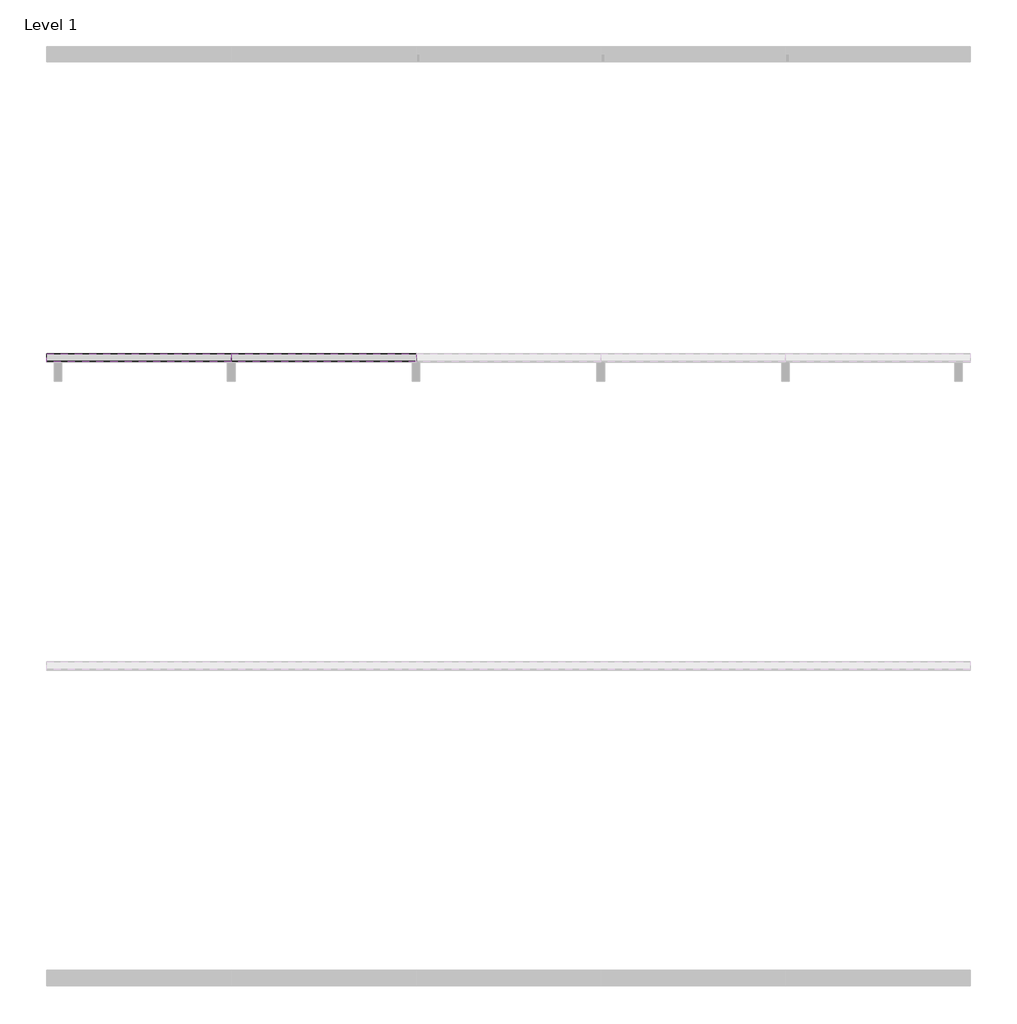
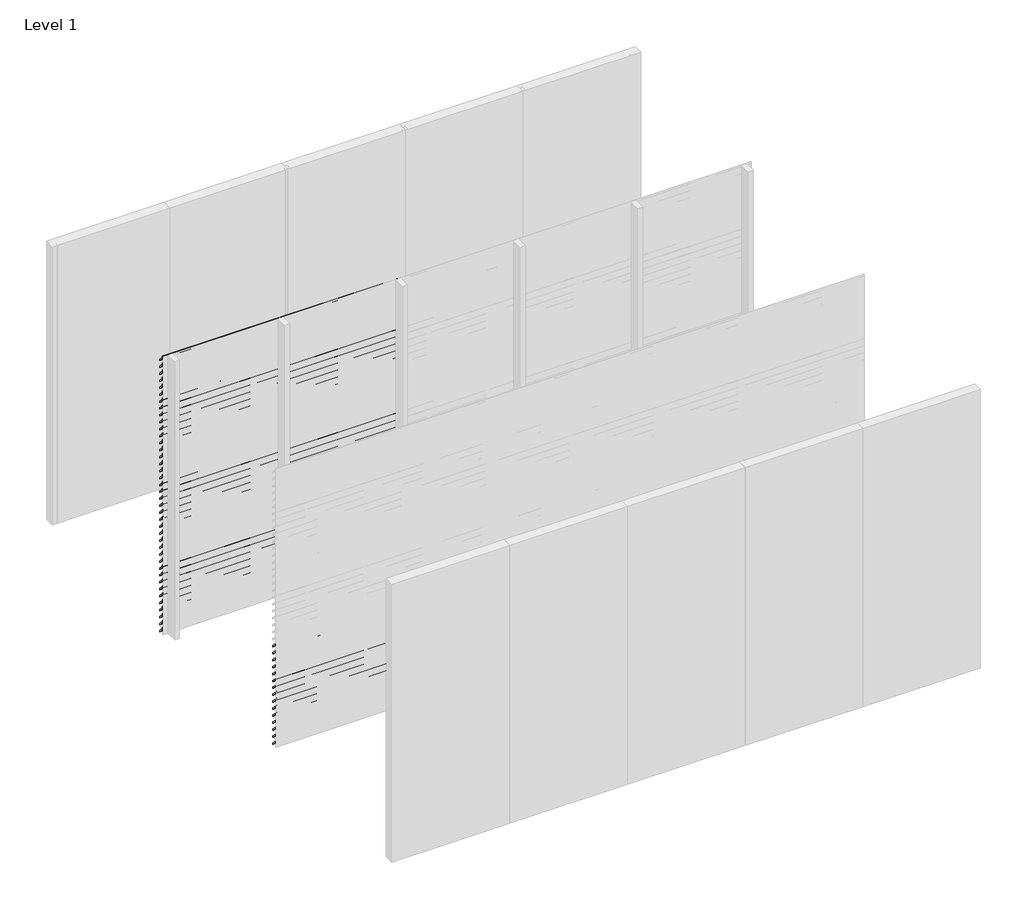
# One storey, part 2 of 11: 92 proxies.
"""IFC4 building model written with IfcOpenShell, lengths in millimetres."""

import ifcopenshell
import ifcopenshell.guid

model = None  # the IFC model being written
_history = None  # IfcOwnerHistory: only IFC2X3 demands one
_inside = {}  # id of a spatial element -> (the spatial element, [elements in it])
_under = {}  # id of a project, library or spatial element -> (it, [spatial elements below it])
_declared = {}  # id of a project -> (the project, [libraries it declares])
_typed = {}  # id of a type object -> (the type object, [elements of that type])
_made_of = {}  # id of a material, layer set ... -> (it, [elements and type objects made of it])


def new_model(schema):
    """Start an empty IFC model of exactly this schema.

    Asked for "IFC4X3", IfcOpenShell would pick the latest addendum, in which some entities
    have other attributes; the version numbers below select the first issue.
    IFC2X3 requires an IfcOwnerHistory on every rooted entity: one is made here for all.
    """
    global model, _history
    if schema == "IFC4X3":
        model = ifcopenshell.file(schema_version=(4, 3, 0, 0))
    else:
        model = ifcopenshell.file(schema=schema)
    _inside.clear()
    _under.clear()
    _declared.clear()
    _typed.clear()
    _made_of.clear()
    _history = None
    if model.schema == "IFC2X3":
        org = make("IfcOrganization", Name="unknown")
        user = make(
            "IfcPersonAndOrganization",
            ThePerson=make("IfcPerson", FamilyName="unknown"),
            TheOrganization=org,
        )
        app = make(
            "IfcApplication",
            ApplicationDeveloper=org,
            Version="unknown",
            ApplicationFullName="unknown",
            ApplicationIdentifier="unknown",
        )
        _history = make(
            "IfcOwnerHistory",
            OwningUser=user,
            OwningApplication=app,
            ChangeAction="ADDED",
            CreationDate=0,
        )
    return model


def make(cls, **values):
    """One entity of the class cls with the attributes given. An attribute that is None is left unset."""
    return model.create_entity(
        cls, **{name: value for name, value in values.items() if value is not None}
    )


def rooted(cls, **values):
    """An entity with a GlobalId (a new one), such as an element, a storey or a relation."""
    return make(cls, GlobalId=ifcopenshell.guid.new(), OwnerHistory=_history, **values)


def si_unit(unit_type, name, prefix=None):
    """IfcSIUnit, for example si_unit("LENGTHUNIT", "METRE", prefix="MILLI")."""
    return make("IfcSIUnit", UnitType=unit_type, Prefix=prefix, Name=name)


def assignment(units):
    """IfcUnitAssignment: the units of a project."""
    return None if units is None else make("IfcUnitAssignment", Units=units)


def point(xyz):
    """IfcCartesianPoint."""
    return None if xyz is None else make("IfcCartesianPoint", Coordinates=xyz)


def direction(xyz):
    """IfcDirection."""
    return None if xyz is None else make("IfcDirection", DirectionRatios=xyz)


def frame(location, z_axis=None, x_axis=None):
    """IfcAxis2Placement3D, a coordinate frame: its origin and axes. An axis left out is left unset."""
    return make(
        "IfcAxis2Placement3D",
        Location=point(location),
        Axis=direction(z_axis),
        RefDirection=direction(x_axis),
    )


def origin():
    """The frame at (0, 0, 0) with its axes left unset."""
    return frame((0.0, 0.0, 0.0))


def place(relative_to, where):
    """IfcLocalPlacement: puts the frame where relative to a parent placement (None: the world)."""
    return make(
        "IfcLocalPlacement", PlacementRelTo=relative_to, RelativePlacement=where
    )


def context(
    kind, dimensions, precision=None, world=None, true_north=None, identifier=None
):
    """IfcGeometricRepresentationContext, for example the 3D "Model" context."""
    return make(
        "IfcGeometricRepresentationContext",
        ContextIdentifier=identifier,
        ContextType=kind,
        CoordinateSpaceDimension=dimensions,
        Precision=precision,
        WorldCoordinateSystem=world,
        TrueNorth=true_north,
    )


def project(units=None, contexts=None):
    """IfcProject with its units and contexts."""
    return rooted(
        "IfcProject",
        Name="project",
        RepresentationContexts=contexts,
        UnitsInContext=assignment(units),
    )


def spatial(cls, under=None, at=None, **own):
    """A site, building, storey or space (cls), placed at a placement, below another one or the project."""
    s = rooted(cls, ObjectPlacement=at, **own)
    if under is not None:
        _under.setdefault(under.id(), (under, []))[1].append(s)
    return s


def polyline(points):
    """IfcPolyline through the points."""
    return make("IfcPolyline", Points=[point(p) for p in points])


def outline(outer, holes=None, kind="AREA"):
    """IfcArbitraryClosedProfileDef: a profile drawn as a closed curve; with holes, ...WithVoids."""
    if holes is None:
        return make("IfcArbitraryClosedProfileDef", ProfileType=kind, OuterCurve=outer)
    return make(
        "IfcArbitraryProfileDefWithVoids",
        ProfileType=kind,
        OuterCurve=outer,
        InnerCurves=holes,
    )


def extrude(swept, where, along, depth):
    """IfcExtrudedAreaSolid: the profile swept, set in the frame where, extruded along a direction by depth."""
    return make(
        "IfcExtrudedAreaSolid",
        SweptArea=swept,
        Position=where,
        ExtrudedDirection=direction(along),
        Depth=depth,
    )


def shape(context_of_items, identifier, shape_type, items):
    """IfcShapeRepresentation: the items that make up one representation, for example the "Body"."""
    return make(
        "IfcShapeRepresentation",
        ContextOfItems=context_of_items,
        RepresentationIdentifier=identifier,
        RepresentationType=shape_type,
        Items=items,
    )


def made_of(thing, what):
    """Note that an element or type object is made of a material, layer set ...; save() writes the relation."""
    if what is not None:
        _made_of.setdefault(what.id(), (what, []))[1].append(thing)
    return thing


def element(
    cls,
    number,
    at=None,
    inside=None,
    cuts=None,
    type_object=None,
    material=None,
    context=None,
    identifier="Body",
    shape_type=None,
    held_by="IfcProductDefinitionShape",
    body=None,
    shapes=None,
    **own,
):
    """One element of the class cls, such as IfcWall. Its Tag is "e" and its number.

    at: its placement. inside: the storey or other place that contains it. cuts: it is an
    opening in that element (IfcRelVoidsElement). A single representation is given by context,
    identifier, shape_type and body (its items); several are given by shapes. held_by: the class
    of the entity that holds the representations. save() writes the other relations.
    """
    e = rooted(cls, Tag="e%d" % number, ObjectPlacement=at, **own)
    if body is not None:
        shapes = [shape(context, identifier, shape_type, body)]
    if shapes is not None:
        e.Representation = make(held_by, Representations=shapes)
    if inside is not None:
        _inside.setdefault(inside.id(), (inside, []))[1].append(e)
    if cuts is not None:
        rooted(
            "IfcRelVoidsElement", RelatingBuildingElement=cuts, RelatedOpeningElement=e
        )
    if type_object is not None:
        _typed.setdefault(type_object.id(), (type_object, []))[1].append(e)
    return made_of(e, material)


def aggregate(whole, parts):
    """IfcRelAggregates: a whole, such as a stair, and the parts it consists of."""
    return rooted("IfcRelAggregates", RelatingObject=whole, RelatedObjects=parts)


def save(model, path):
    """Write the relations noted so far, then the file.

    IfcRelAggregates (storeys below a building ...), IfcRelContainedInSpatialStructure (elements
    in a storey), IfcRelDefinesByType, IfcRelAssociatesMaterial and IfcRelDeclares: one each for
    every whole, place, type object, material and project.
    """
    for whole, parts in _under.values():
        aggregate(whole, parts)
    for where, things in _inside.values():
        rooted(
            "IfcRelContainedInSpatialStructure",
            RelatedElements=things,
            RelatingStructure=where,
        )
    for kind, things in _typed.values():
        rooted("IfcRelDefinesByType", RelatedObjects=things, RelatingType=kind)
    for what, things in _made_of.values():
        rooted("IfcRelAssociatesMaterial", RelatedObjects=things, RelatingMaterial=what)
    for by, libraries in _declared.values():
        rooted("IfcRelDeclares", RelatingContext=by, RelatedDefinitions=libraries)
    model.write(path)


model = new_model("IFC4")

# Units and contexts
model_context = context("Model", 3, world=origin())
ifc_project = project(units=[si_unit("LENGTHUNIT", "METRE", prefix="MILLI")], contexts=[model_context])

# Site, building, storey
site = spatial("IfcSite", under=ifc_project)
building = spatial("IfcBuilding", under=site)
storey = spatial("IfcBuildingStorey", under=building, Name="Level 1", Elevation=0.0)

# Proxies
placement = place(None, origin())
element("IfcBuildingElementProxy", 1, Name="Wall Sweeps", at=placement, inside=storey, context=model_context, shape_type="SweptSolid", body=[
    extrude(outline(polyline([(-17995.0, 3000.0), (-17995.0, 2990.7409854), (-17946.0, 2940.0), (-17946.0, 2924.0), (-17997.0, 2976.812046), (-17997.0, 3000.0), (-17995.0, 3000.0)])), frame((1200.0000002, 0.0, 0.0), z_axis=(1.0, 0.0, 0.0), x_axis=(0.0, 1.0, 0.0)), (0.0, 0.0, 1.0), 1199.9999999),
])
element("IfcBuildingElementProxy", 2, Name="Wall Sweeps", at=placement, inside=storey, context=model_context, shape_type="SweptSolid", body=[
    extrude(outline(polyline([(-17995.0, 2925.0), (-17995.0, 2915.7409854), (-17946.0, 2865.0), (-17946.0, 2849.0), (-17997.0, 2901.812046), (-17997.0, 2925.0), (-17995.0, 2925.0)])), frame((1200.0000002, 0.0, 0.0), z_axis=(1.0, 0.0, 0.0), x_axis=(0.0, 1.0, 0.0)), (0.0, 0.0, 1.0), 1199.9999999),
])
element("IfcBuildingElementProxy", 3, Name="Wall Sweeps", at=placement, inside=storey, context=model_context, shape_type="SweptSolid", body=[
    extrude(outline(polyline([(-17995.0, 2850.0), (-17995.0, 2840.7409854), (-17946.0, 2790.0), (-17946.0, 2774.0), (-17997.0, 2826.812046), (-17997.0, 2850.0), (-17995.0, 2850.0)])), frame((1200.0000002, 0.0, 0.0), z_axis=(1.0, 0.0, 0.0), x_axis=(0.0, 1.0, 0.0)), (0.0, 0.0, 1.0), 1199.9999999),
])
element("IfcBuildingElementProxy", 4, Name="Wall Sweeps", at=placement, inside=storey, context=model_context, shape_type="SweptSolid", body=[
    extrude(outline(polyline([(-17995.0, 2775.0), (-17995.0, 2765.7409854), (-17946.0, 2715.0), (-17946.0, 2699.0), (-17997.0, 2751.812046), (-17997.0, 2775.0), (-17995.0, 2775.0)])), frame((1200.0000002, 0.0, 0.0), z_axis=(1.0, 0.0, 0.0), x_axis=(0.0, 1.0, 0.0)), (0.0, 0.0, 1.0), 1199.9999999),
])
element("IfcBuildingElementProxy", 5, Name="Wall Sweeps", at=placement, inside=storey, context=model_context, shape_type="SweptSolid", body=[
    extrude(outline(polyline([(-17995.0, 2700.0), (-17995.0, 2690.7409854), (-17946.0, 2640.0), (-17946.0, 2624.0), (-17997.0, 2676.812046), (-17997.0, 2700.0), (-17995.0, 2700.0)])), frame((1200.0000002, 0.0, 0.0), z_axis=(1.0, 0.0, 0.0), x_axis=(0.0, 1.0, 0.0)), (0.0, 0.0, 1.0), 1199.9999999),
])
element("IfcBuildingElementProxy", 6, Name="Wall Sweeps", at=placement, inside=storey, context=model_context, shape_type="SweptSolid", body=[
    extrude(outline(polyline([(-17995.0, 2625.0), (-17995.0, 2615.7409854), (-17946.0, 2565.0), (-17946.0, 2549.0), (-17997.0, 2601.812046), (-17997.0, 2625.0), (-17995.0, 2625.0)])), frame((1200.0000002, 0.0, 0.0), z_axis=(1.0, 0.0, 0.0), x_axis=(0.0, 1.0, 0.0)), (0.0, 0.0, 1.0), 1199.9999999),
])
element("IfcBuildingElementProxy", 7, Name="Wall Sweeps", at=placement, inside=storey, context=model_context, shape_type="SweptSolid", body=[
    extrude(outline(polyline([(-17995.0, 2550.0), (-17995.0, 2540.7409854), (-17946.0, 2490.0), (-17946.0, 2474.0), (-17997.0, 2526.812046), (-17997.0, 2550.0), (-17995.0, 2550.0)])), frame((1200.0000002, 0.0, 0.0), z_axis=(1.0, 0.0, 0.0), x_axis=(0.0, 1.0, 0.0)), (0.0, 0.0, 1.0), 1199.9999999),
])
element("IfcBuildingElementProxy", 8, Name="Wall Sweeps", at=placement, inside=storey, context=model_context, shape_type="SweptSolid", body=[
    extrude(outline(polyline([(-17995.0, 2475.0), (-17995.0, 2465.7409854), (-17946.0, 2415.0), (-17946.0, 2399.0), (-17997.0, 2451.812046), (-17997.0, 2475.0), (-17995.0, 2475.0)])), frame((1200.0000002, 0.0, 0.0), z_axis=(1.0, 0.0, 0.0), x_axis=(0.0, 1.0, 0.0)), (0.0, 0.0, 1.0), 1199.9999999),
])
element("IfcBuildingElementProxy", 9, Name="Wall Sweeps", at=placement, inside=storey, context=model_context, shape_type="SweptSolid", body=[
    extrude(outline(polyline([(-17995.0, 2400.0), (-17995.0, 2390.7409854), (-17946.0, 2340.0), (-17946.0, 2324.0), (-17997.0, 2376.812046), (-17997.0, 2400.0), (-17995.0, 2400.0)])), frame((1200.0000002, 0.0, 0.0), z_axis=(1.0, 0.0, 0.0), x_axis=(0.0, 1.0, 0.0)), (0.0, 0.0, 1.0), 1199.9999999),
])
element("IfcBuildingElementProxy", 10, Name="Wall Sweeps", at=placement, inside=storey, context=model_context, shape_type="SweptSolid", body=[
    extrude(outline(polyline([(-17995.0, 2325.0), (-17995.0, 2315.7409854), (-17946.0, 2265.0), (-17946.0, 2249.0), (-17997.0, 2301.812046), (-17997.0, 2325.0), (-17995.0, 2325.0)])), frame((1200.0000002, 0.0, 0.0), z_axis=(1.0, 0.0, 0.0), x_axis=(0.0, 1.0, 0.0)), (0.0, 0.0, 1.0), 1199.9999999),
])
element("IfcBuildingElementProxy", 11, Name="Wall Sweeps", at=placement, inside=storey, context=model_context, shape_type="SweptSolid", body=[
    extrude(outline(polyline([(-17995.0, 2250.0), (-17995.0, 2240.7409854), (-17946.0, 2190.0), (-17946.0, 2174.0), (-17997.0, 2226.812046), (-17997.0, 2250.0), (-17995.0, 2250.0)])), frame((1200.0000002, 0.0, 0.0), z_axis=(1.0, 0.0, 0.0), x_axis=(0.0, 1.0, 0.0)), (0.0, 0.0, 1.0), 1199.9999999),
])
element("IfcBuildingElementProxy", 12, Name="Wall Sweeps", at=placement, inside=storey, context=model_context, shape_type="SweptSolid", body=[
    extrude(outline(polyline([(-17995.0, 2175.0), (-17995.0, 2165.7409854), (-17946.0, 2115.0), (-17946.0, 2099.0), (-17997.0, 2151.812046), (-17997.0, 2175.0), (-17995.0, 2175.0)])), frame((1200.0000002, 0.0, 0.0), z_axis=(1.0, 0.0, 0.0), x_axis=(0.0, 1.0, 0.0)), (0.0, 0.0, 1.0), 1199.9999999),
])
element("IfcBuildingElementProxy", 13, Name="Wall Sweeps", at=placement, inside=storey, context=model_context, shape_type="SweptSolid", body=[
    extrude(outline(polyline([(-17995.0, 2100.0), (-17995.0, 2090.7409854), (-17946.0, 2040.0), (-17946.0, 2024.0), (-17997.0, 2076.812046), (-17997.0, 2100.0), (-17995.0, 2100.0)])), frame((1200.0000002, 0.0, 0.0), z_axis=(1.0, 0.0, 0.0), x_axis=(0.0, 1.0, 0.0)), (0.0, 0.0, 1.0), 1199.9999999),
])
element("IfcBuildingElementProxy", 14, Name="Wall Sweeps", at=placement, inside=storey, context=model_context, shape_type="SweptSolid", body=[
    extrude(outline(polyline([(-17995.0, 2025.0), (-17995.0, 2015.7409854), (-17946.0, 1965.0), (-17946.0, 1949.0), (-17997.0, 2001.812046), (-17997.0, 2025.0), (-17995.0, 2025.0)])), frame((1200.0000002, 0.0, 0.0), z_axis=(1.0, 0.0, 0.0), x_axis=(0.0, 1.0, 0.0)), (0.0, 0.0, 1.0), 1199.9999999),
])
element("IfcBuildingElementProxy", 15, Name="Wall Sweeps", at=placement, inside=storey, context=model_context, shape_type="SweptSolid", body=[
    extrude(outline(polyline([(-17995.0, 1950.0), (-17995.0, 1940.7409854), (-17946.0, 1890.0), (-17946.0, 1874.0), (-17997.0, 1926.812046), (-17997.0, 1950.0), (-17995.0, 1950.0)])), frame((1200.0000002, 0.0, 0.0), z_axis=(1.0, 0.0, 0.0), x_axis=(0.0, 1.0, 0.0)), (0.0, 0.0, 1.0), 1199.9999999),
])
element("IfcBuildingElementProxy", 16, Name="Wall Sweeps", at=placement, inside=storey, context=model_context, shape_type="SweptSolid", body=[
    extrude(outline(polyline([(-17995.0, 1875.0), (-17995.0, 1865.7409854), (-17946.0, 1815.0), (-17946.0, 1799.0), (-17997.0, 1851.812046), (-17997.0, 1875.0), (-17995.0, 1875.0)])), frame((1200.0000002, 0.0, 0.0), z_axis=(1.0, 0.0, 0.0), x_axis=(0.0, 1.0, 0.0)), (0.0, 0.0, 1.0), 1199.9999999),
])
element("IfcBuildingElementProxy", 17, Name="Wall Sweeps", at=placement, inside=storey, context=model_context, shape_type="SweptSolid", body=[
    extrude(outline(polyline([(-17995.0, 1800.0), (-17995.0, 1790.7409854), (-17946.0, 1740.0), (-17946.0, 1724.0), (-17997.0, 1776.812046), (-17997.0, 1800.0), (-17995.0, 1800.0)])), frame((1200.0000002, 0.0, 0.0), z_axis=(1.0, 0.0, 0.0), x_axis=(0.0, 1.0, 0.0)), (0.0, 0.0, 1.0), 1199.9999999),
])
element("IfcBuildingElementProxy", 18, Name="Wall Sweeps", at=placement, inside=storey, context=model_context, shape_type="SweptSolid", body=[
    extrude(outline(polyline([(-17995.0, 1725.0), (-17995.0, 1715.7409854), (-17946.0, 1665.0), (-17946.0, 1649.0), (-17997.0, 1701.812046), (-17997.0, 1725.0), (-17995.0, 1725.0)])), frame((1200.0000002, 0.0, 0.0), z_axis=(1.0, 0.0, 0.0), x_axis=(0.0, 1.0, 0.0)), (0.0, 0.0, 1.0), 1199.9999999),
])
element("IfcBuildingElementProxy", 19, Name="Wall Sweeps", at=placement, inside=storey, context=model_context, shape_type="SweptSolid", body=[
    extrude(outline(polyline([(-17995.0, 1650.0), (-17995.0, 1640.7409854), (-17946.0, 1590.0), (-17946.0, 1574.0), (-17997.0, 1626.812046), (-17997.0, 1650.0), (-17995.0, 1650.0)])), frame((1200.0000002, 0.0, 0.0), z_axis=(1.0, 0.0, 0.0), x_axis=(0.0, 1.0, 0.0)), (0.0, 0.0, 1.0), 1199.9999999),
])
element("IfcBuildingElementProxy", 20, Name="Wall Sweeps", at=placement, inside=storey, context=model_context, shape_type="SweptSolid", body=[
    extrude(outline(polyline([(-17995.0, 1575.0), (-17995.0, 1565.7409854), (-17946.0, 1515.0), (-17946.0, 1499.0), (-17997.0, 1551.812046), (-17997.0, 1575.0), (-17995.0, 1575.0)])), frame((1200.0000002, 0.0, 0.0), z_axis=(1.0, 0.0, 0.0), x_axis=(0.0, 1.0, 0.0)), (0.0, 0.0, 1.0), 1199.9999999),
])
element("IfcBuildingElementProxy", 21, Name="Wall Sweeps", at=placement, inside=storey, context=model_context, shape_type="SweptSolid", body=[
    extrude(outline(polyline([(-17995.0, 1500.0), (-17995.0, 1490.7409854), (-17946.0, 1440.0), (-17946.0, 1424.0), (-17997.0, 1476.812046), (-17997.0, 1500.0), (-17995.0, 1500.0)])), frame((1200.0000002, 0.0, 0.0), z_axis=(1.0, 0.0, 0.0), x_axis=(0.0, 1.0, 0.0)), (0.0, 0.0, 1.0), 1199.9999999),
])
element("IfcBuildingElementProxy", 22, Name="Wall Sweeps", at=placement, inside=storey, context=model_context, shape_type="SweptSolid", body=[
    extrude(outline(polyline([(-17995.0, 1425.0), (-17995.0, 1415.7409854), (-17946.0, 1365.0), (-17946.0, 1349.0), (-17997.0, 1401.812046), (-17997.0, 1425.0), (-17995.0, 1425.0)])), frame((1200.0000002, 0.0, 0.0), z_axis=(1.0, 0.0, 0.0), x_axis=(0.0, 1.0, 0.0)), (0.0, 0.0, 1.0), 1199.9999999),
])
element("IfcBuildingElementProxy", 23, Name="Wall Sweeps", at=placement, inside=storey, context=model_context, shape_type="SweptSolid", body=[
    extrude(outline(polyline([(-17995.0, 1350.0), (-17995.0, 1340.7409854), (-17946.0, 1290.0), (-17946.0, 1274.0), (-17997.0, 1326.812046), (-17997.0, 1350.0), (-17995.0, 1350.0)])), frame((1200.0000002, 0.0, 0.0), z_axis=(1.0, 0.0, 0.0), x_axis=(0.0, 1.0, 0.0)), (0.0, 0.0, 1.0), 1199.9999999),
])
element("IfcBuildingElementProxy", 24, Name="Wall Sweeps", at=placement, inside=storey, context=model_context, shape_type="SweptSolid", body=[
    extrude(outline(polyline([(-17995.0, 1275.0), (-17995.0, 1265.7409854), (-17946.0, 1215.0), (-17946.0, 1199.0), (-17997.0, 1251.812046), (-17997.0, 1275.0), (-17995.0, 1275.0)])), frame((1200.0000002, 0.0, 0.0), z_axis=(1.0, 0.0, 0.0), x_axis=(0.0, 1.0, 0.0)), (0.0, 0.0, 1.0), 1199.9999999),
])
element("IfcBuildingElementProxy", 25, Name="Wall Sweeps", at=placement, inside=storey, context=model_context, shape_type="SweptSolid", body=[
    extrude(outline(polyline([(-17995.0, 1200.0), (-17995.0, 1190.7409854), (-17946.0, 1140.0), (-17946.0, 1124.0), (-17997.0, 1176.812046), (-17997.0, 1200.0), (-17995.0, 1200.0)])), frame((1200.0000002, 0.0, 0.0), z_axis=(1.0, 0.0, 0.0), x_axis=(0.0, 1.0, 0.0)), (0.0, 0.0, 1.0), 1199.9999999),
])
element("IfcBuildingElementProxy", 26, Name="Wall Sweeps", at=placement, inside=storey, context=model_context, shape_type="SweptSolid", body=[
    extrude(outline(polyline([(-17995.0, 1125.0), (-17995.0, 1115.7409854), (-17946.0, 1065.0), (-17946.0, 1049.0), (-17997.0, 1101.812046), (-17997.0, 1125.0), (-17995.0, 1125.0)])), frame((1200.0000002, 0.0, 0.0), z_axis=(1.0, 0.0, 0.0), x_axis=(0.0, 1.0, 0.0)), (0.0, 0.0, 1.0), 1199.9999999),
])
element("IfcBuildingElementProxy", 27, Name="Wall Sweeps", at=placement, inside=storey, context=model_context, shape_type="SweptSolid", body=[
    extrude(outline(polyline([(-17995.0, 1050.0), (-17995.0, 1040.7409854), (-17946.0, 990.0), (-17946.0, 974.0), (-17997.0, 1026.812046), (-17997.0, 1050.0), (-17995.0, 1050.0)])), frame((1200.0000002, 0.0, 0.0), z_axis=(1.0, 0.0, 0.0), x_axis=(0.0, 1.0, 0.0)), (0.0, 0.0, 1.0), 1199.9999999),
])
element("IfcBuildingElementProxy", 28, Name="Wall Sweeps", at=placement, inside=storey, context=model_context, shape_type="SweptSolid", body=[
    extrude(outline(polyline([(-17995.0, 975.0), (-17995.0, 965.7409854), (-17946.0, 915.0), (-17946.0, 899.0), (-17997.0, 951.812046), (-17997.0, 975.0), (-17995.0, 975.0)])), frame((1200.0000002, 0.0, 0.0), z_axis=(1.0, 0.0, 0.0), x_axis=(0.0, 1.0, 0.0)), (0.0, 0.0, 1.0), 1199.9999999),
])
element("IfcBuildingElementProxy", 29, Name="Wall Sweeps", at=placement, inside=storey, context=model_context, shape_type="SweptSolid", body=[
    extrude(outline(polyline([(-17995.0, 900.0), (-17995.0, 890.7409854), (-17946.0, 840.0), (-17946.0, 824.0), (-17997.0, 876.812046), (-17997.0, 900.0), (-17995.0, 900.0)])), frame((1200.0000002, 0.0, 0.0), z_axis=(1.0, 0.0, 0.0), x_axis=(0.0, 1.0, 0.0)), (0.0, 0.0, 1.0), 1199.9999999),
])
element("IfcBuildingElementProxy", 30, Name="Wall Sweeps", at=placement, inside=storey, context=model_context, shape_type="SweptSolid", body=[
    extrude(outline(polyline([(-17995.0, 825.0), (-17995.0, 815.7409854), (-17946.0, 765.0), (-17946.0, 749.0), (-17997.0, 801.812046), (-17997.0, 825.0), (-17995.0, 825.0)])), frame((1200.0000002, 0.0, 0.0), z_axis=(1.0, 0.0, 0.0), x_axis=(0.0, 1.0, 0.0)), (0.0, 0.0, 1.0), 1199.9999999),
])
element("IfcBuildingElementProxy", 31, Name="Wall Sweeps", at=placement, inside=storey, context=model_context, shape_type="SweptSolid", body=[
    extrude(outline(polyline([(-17995.0, 750.0), (-17995.0, 740.7409854), (-17946.0, 690.0), (-17946.0, 674.0), (-17997.0, 726.812046), (-17997.0, 750.0), (-17995.0, 750.0)])), frame((1200.0000002, 0.0, 0.0), z_axis=(1.0, 0.0, 0.0), x_axis=(0.0, 1.0, 0.0)), (0.0, 0.0, 1.0), 1199.9999999),
])
element("IfcBuildingElementProxy", 32, Name="Wall Sweeps", at=placement, inside=storey, context=model_context, shape_type="SweptSolid", body=[
    extrude(outline(polyline([(-17995.0, 675.0), (-17995.0, 665.7409854), (-17946.0, 615.0), (-17946.0, 599.0), (-17997.0, 651.812046), (-17997.0, 675.0), (-17995.0, 675.0)])), frame((1200.0000002, 0.0, 0.0), z_axis=(1.0, 0.0, 0.0), x_axis=(0.0, 1.0, 0.0)), (0.0, 0.0, 1.0), 1199.9999999),
])
element("IfcBuildingElementProxy", 33, Name="Wall Sweeps", at=placement, inside=storey, context=model_context, shape_type="SweptSolid", body=[
    extrude(outline(polyline([(-17995.0, 600.0), (-17995.0, 590.7409854), (-17946.0, 540.0), (-17946.0, 524.0), (-17997.0, 576.812046), (-17997.0, 600.0), (-17995.0, 600.0)])), frame((1200.0000002, 0.0, 0.0), z_axis=(1.0, 0.0, 0.0), x_axis=(0.0, 1.0, 0.0)), (0.0, 0.0, 1.0), 1199.9999999),
])
element("IfcBuildingElementProxy", 34, Name="Wall Sweeps", at=placement, inside=storey, context=model_context, shape_type="SweptSolid", body=[
    extrude(outline(polyline([(-17995.0, 525.0), (-17995.0, 515.7409854), (-17946.0, 465.0), (-17946.0, 449.0), (-17997.0, 501.812046), (-17997.0, 525.0), (-17995.0, 525.0)])), frame((1200.0000002, 0.0, 0.0), z_axis=(1.0, 0.0, 0.0), x_axis=(0.0, 1.0, 0.0)), (0.0, 0.0, 1.0), 1199.9999999),
])
element("IfcBuildingElementProxy", 35, Name="Wall Sweeps", at=placement, inside=storey, context=model_context, shape_type="SweptSolid", body=[
    extrude(outline(polyline([(-17995.0, 450.0), (-17995.0, 440.7409854), (-17946.0, 390.0), (-17946.0, 374.0), (-17997.0, 426.812046), (-17997.0, 450.0), (-17995.0, 450.0)])), frame((1200.0000002, 0.0, 0.0), z_axis=(1.0, 0.0, 0.0), x_axis=(0.0, 1.0, 0.0)), (0.0, 0.0, 1.0), 1199.9999999),
])
element("IfcBuildingElementProxy", 36, Name="Wall Sweeps", at=placement, inside=storey, context=model_context, shape_type="SweptSolid", body=[
    extrude(outline(polyline([(-17995.0, 375.0), (-17995.0, 365.7409854), (-17946.0, 315.0), (-17946.0, 299.0), (-17997.0, 351.812046), (-17997.0, 375.0), (-17995.0, 375.0)])), frame((1200.0000002, 0.0, 0.0), z_axis=(1.0, 0.0, 0.0), x_axis=(0.0, 1.0, 0.0)), (0.0, 0.0, 1.0), 1199.9999999),
])
element("IfcBuildingElementProxy", 37, Name="Wall Sweeps", at=placement, inside=storey, context=model_context, shape_type="SweptSolid", body=[
    extrude(outline(polyline([(-17995.0, 300.0), (-17995.0, 290.7409854), (-17946.0, 240.0), (-17946.0, 224.0), (-17997.0, 276.812046), (-17997.0, 300.0), (-17995.0, 300.0)])), frame((1200.0000002, 0.0, 0.0), z_axis=(1.0, 0.0, 0.0), x_axis=(0.0, 1.0, 0.0)), (0.0, 0.0, 1.0), 1199.9999999),
])
element("IfcBuildingElementProxy", 38, Name="Wall Sweeps", at=placement, inside=storey, context=model_context, shape_type="SweptSolid", body=[
    extrude(outline(polyline([(-17995.0, 3000.0), (-17995.0, 2990.7409854), (-17946.0, 2940.0), (-17946.0, 2924.0), (-17997.0, 2976.812046), (-17997.0, 3000.0), (-17995.0, 3000.0)])), frame((0.0, 0.0, 0.0), z_axis=(1.0, 0.0, 0.0), x_axis=(0.0, 1.0, 0.0)), (0.0, 0.0, 1.0), 1200.0000002),
])
element("IfcBuildingElementProxy", 39, Name="Wall Sweeps", at=placement, inside=storey, context=model_context, shape_type="SweptSolid", body=[
    extrude(outline(polyline([(-17995.0, 2925.0), (-17995.0, 2915.7409854), (-17946.0, 2865.0), (-17946.0, 2849.0), (-17997.0, 2901.812046), (-17997.0, 2925.0), (-17995.0, 2925.0)])), frame((0.0, 0.0, 0.0), z_axis=(1.0, 0.0, 0.0), x_axis=(0.0, 1.0, 0.0)), (0.0, 0.0, 1.0), 1200.0000002),
])
element("IfcBuildingElementProxy", 40, Name="Wall Sweeps", at=placement, inside=storey, context=model_context, shape_type="SweptSolid", body=[
    extrude(outline(polyline([(-17995.0, 2850.0), (-17995.0, 2840.7409854), (-17946.0, 2790.0), (-17946.0, 2774.0), (-17997.0, 2826.812046), (-17997.0, 2850.0), (-17995.0, 2850.0)])), frame((0.0, 0.0, 0.0), z_axis=(1.0, 0.0, 0.0), x_axis=(0.0, 1.0, 0.0)), (0.0, 0.0, 1.0), 1200.0000002),
])
element("IfcBuildingElementProxy", 41, Name="Wall Sweeps", at=placement, inside=storey, context=model_context, shape_type="SweptSolid", body=[
    extrude(outline(polyline([(-17995.0, 2775.0), (-17995.0, 2765.7409854), (-17946.0, 2715.0), (-17946.0, 2699.0), (-17997.0, 2751.812046), (-17997.0, 2775.0), (-17995.0, 2775.0)])), frame((0.0, 0.0, 0.0), z_axis=(1.0, 0.0, 0.0), x_axis=(0.0, 1.0, 0.0)), (0.0, 0.0, 1.0), 1200.0000002),
])
element("IfcBuildingElementProxy", 42, Name="Wall Sweeps", at=placement, inside=storey, context=model_context, shape_type="SweptSolid", body=[
    extrude(outline(polyline([(-17995.0, 2700.0), (-17995.0, 2690.7409854), (-17946.0, 2640.0), (-17946.0, 2624.0), (-17997.0, 2676.812046), (-17997.0, 2700.0), (-17995.0, 2700.0)])), frame((0.0, 0.0, 0.0), z_axis=(1.0, 0.0, 0.0), x_axis=(0.0, 1.0, 0.0)), (0.0, 0.0, 1.0), 1200.0000002),
])
element("IfcBuildingElementProxy", 43, Name="Wall Sweeps", at=placement, inside=storey, context=model_context, shape_type="SweptSolid", body=[
    extrude(outline(polyline([(-17995.0, 2625.0), (-17995.0, 2615.7409854), (-17946.0, 2565.0), (-17946.0, 2549.0), (-17997.0, 2601.812046), (-17997.0, 2625.0), (-17995.0, 2625.0)])), frame((0.0, 0.0, 0.0), z_axis=(1.0, 0.0, 0.0), x_axis=(0.0, 1.0, 0.0)), (0.0, 0.0, 1.0), 1200.0000002),
])
element("IfcBuildingElementProxy", 44, Name="Wall Sweeps", at=placement, inside=storey, context=model_context, shape_type="SweptSolid", body=[
    extrude(outline(polyline([(-17995.0, 2550.0), (-17995.0, 2540.7409854), (-17946.0, 2490.0), (-17946.0, 2474.0), (-17997.0, 2526.812046), (-17997.0, 2550.0), (-17995.0, 2550.0)])), frame((0.0, 0.0, 0.0), z_axis=(1.0, 0.0, 0.0), x_axis=(0.0, 1.0, 0.0)), (0.0, 0.0, 1.0), 1200.0000002),
])
element("IfcBuildingElementProxy", 45, Name="Wall Sweeps", at=placement, inside=storey, context=model_context, shape_type="SweptSolid", body=[
    extrude(outline(polyline([(-17995.0, 2475.0), (-17995.0, 2465.7409854), (-17946.0, 2415.0), (-17946.0, 2399.0), (-17997.0, 2451.812046), (-17997.0, 2475.0), (-17995.0, 2475.0)])), frame((0.0, 0.0, 0.0), z_axis=(1.0, 0.0, 0.0), x_axis=(0.0, 1.0, 0.0)), (0.0, 0.0, 1.0), 1200.0000002),
])
element("IfcBuildingElementProxy", 46, Name="Wall Sweeps", at=placement, inside=storey, context=model_context, shape_type="SweptSolid", body=[
    extrude(outline(polyline([(-17995.0, 2400.0), (-17995.0, 2390.7409854), (-17946.0, 2340.0), (-17946.0, 2324.0), (-17997.0, 2376.812046), (-17997.0, 2400.0), (-17995.0, 2400.0)])), frame((0.0, 0.0, 0.0), z_axis=(1.0, 0.0, 0.0), x_axis=(0.0, 1.0, 0.0)), (0.0, 0.0, 1.0), 1200.0000002),
])
element("IfcBuildingElementProxy", 47, Name="Wall Sweeps", at=placement, inside=storey, context=model_context, shape_type="SweptSolid", body=[
    extrude(outline(polyline([(-17995.0, 2325.0), (-17995.0, 2315.7409854), (-17946.0, 2265.0), (-17946.0, 2249.0), (-17997.0, 2301.812046), (-17997.0, 2325.0), (-17995.0, 2325.0)])), frame((0.0, 0.0, 0.0), z_axis=(1.0, 0.0, 0.0), x_axis=(0.0, 1.0, 0.0)), (0.0, 0.0, 1.0), 1200.0000002),
])
element("IfcBuildingElementProxy", 48, Name="Wall Sweeps", at=placement, inside=storey, context=model_context, shape_type="SweptSolid", body=[
    extrude(outline(polyline([(-17995.0, 2250.0), (-17995.0, 2240.7409854), (-17946.0, 2190.0), (-17946.0, 2174.0), (-17997.0, 2226.812046), (-17997.0, 2250.0), (-17995.0, 2250.0)])), frame((0.0, 0.0, 0.0), z_axis=(1.0, 0.0, 0.0), x_axis=(0.0, 1.0, 0.0)), (0.0, 0.0, 1.0), 1200.0000002),
])
element("IfcBuildingElementProxy", 49, Name="Wall Sweeps", at=placement, inside=storey, context=model_context, shape_type="SweptSolid", body=[
    extrude(outline(polyline([(-17995.0, 2175.0), (-17995.0, 2165.7409854), (-17946.0, 2115.0), (-17946.0, 2099.0), (-17997.0, 2151.812046), (-17997.0, 2175.0), (-17995.0, 2175.0)])), frame((0.0, 0.0, 0.0), z_axis=(1.0, 0.0, 0.0), x_axis=(0.0, 1.0, 0.0)), (0.0, 0.0, 1.0), 1200.0000002),
])
element("IfcBuildingElementProxy", 50, Name="Wall Sweeps", at=placement, inside=storey, context=model_context, shape_type="SweptSolid", body=[
    extrude(outline(polyline([(-17995.0, 2100.0), (-17995.0, 2090.7409854), (-17946.0, 2040.0), (-17946.0, 2024.0), (-17997.0, 2076.812046), (-17997.0, 2100.0), (-17995.0, 2100.0)])), frame((0.0, 0.0, 0.0), z_axis=(1.0, 0.0, 0.0), x_axis=(0.0, 1.0, 0.0)), (0.0, 0.0, 1.0), 1200.0000002),
])
element("IfcBuildingElementProxy", 51, Name="Wall Sweeps", at=placement, inside=storey, context=model_context, shape_type="SweptSolid", body=[
    extrude(outline(polyline([(-17995.0, 2025.0), (-17995.0, 2015.7409854), (-17946.0, 1965.0), (-17946.0, 1949.0), (-17997.0, 2001.812046), (-17997.0, 2025.0), (-17995.0, 2025.0)])), frame((0.0, 0.0, 0.0), z_axis=(1.0, 0.0, 0.0), x_axis=(0.0, 1.0, 0.0)), (0.0, 0.0, 1.0), 1200.0000002),
])
element("IfcBuildingElementProxy", 52, Name="Wall Sweeps", at=placement, inside=storey, context=model_context, shape_type="SweptSolid", body=[
    extrude(outline(polyline([(-17995.0, 1950.0), (-17995.0, 1940.7409854), (-17946.0, 1890.0), (-17946.0, 1874.0), (-17997.0, 1926.812046), (-17997.0, 1950.0), (-17995.0, 1950.0)])), frame((0.0, 0.0, 0.0), z_axis=(1.0, 0.0, 0.0), x_axis=(0.0, 1.0, 0.0)), (0.0, 0.0, 1.0), 1200.0000002),
])
element("IfcBuildingElementProxy", 53, Name="Wall Sweeps", at=placement, inside=storey, context=model_context, shape_type="SweptSolid", body=[
    extrude(outline(polyline([(-17995.0, 1875.0), (-17995.0, 1865.7409854), (-17946.0, 1815.0), (-17946.0, 1799.0), (-17997.0, 1851.812046), (-17997.0, 1875.0), (-17995.0, 1875.0)])), frame((0.0, 0.0, 0.0), z_axis=(1.0, 0.0, 0.0), x_axis=(0.0, 1.0, 0.0)), (0.0, 0.0, 1.0), 1200.0000002),
])
element("IfcBuildingElementProxy", 54, Name="Wall Sweeps", at=placement, inside=storey, context=model_context, shape_type="SweptSolid", body=[
    extrude(outline(polyline([(-17995.0, 1800.0), (-17995.0, 1790.7409854), (-17946.0, 1740.0), (-17946.0, 1724.0), (-17997.0, 1776.812046), (-17997.0, 1800.0), (-17995.0, 1800.0)])), frame((0.0, 0.0, 0.0), z_axis=(1.0, 0.0, 0.0), x_axis=(0.0, 1.0, 0.0)), (0.0, 0.0, 1.0), 1200.0000002),
])
element("IfcBuildingElementProxy", 55, Name="Wall Sweeps", at=placement, inside=storey, context=model_context, shape_type="SweptSolid", body=[
    extrude(outline(polyline([(-17995.0, 1725.0), (-17995.0, 1715.7409854), (-17946.0, 1665.0), (-17946.0, 1649.0), (-17997.0, 1701.812046), (-17997.0, 1725.0), (-17995.0, 1725.0)])), frame((0.0, 0.0, 0.0), z_axis=(1.0, 0.0, 0.0), x_axis=(0.0, 1.0, 0.0)), (0.0, 0.0, 1.0), 1200.0000002),
])
element("IfcBuildingElementProxy", 56, Name="Wall Sweeps", at=placement, inside=storey, context=model_context, shape_type="SweptSolid", body=[
    extrude(outline(polyline([(-17995.0, 1650.0), (-17995.0, 1640.7409854), (-17946.0, 1590.0), (-17946.0, 1574.0), (-17997.0, 1626.812046), (-17997.0, 1650.0), (-17995.0, 1650.0)])), frame((0.0, 0.0, 0.0), z_axis=(1.0, 0.0, 0.0), x_axis=(0.0, 1.0, 0.0)), (0.0, 0.0, 1.0), 1200.0000002),
])
element("IfcBuildingElementProxy", 57, Name="Wall Sweeps", at=placement, inside=storey, context=model_context, shape_type="SweptSolid", body=[
    extrude(outline(polyline([(-17995.0, 1575.0), (-17995.0, 1565.7409854), (-17946.0, 1515.0), (-17946.0, 1499.0), (-17997.0, 1551.812046), (-17997.0, 1575.0), (-17995.0, 1575.0)])), frame((0.0, 0.0, 0.0), z_axis=(1.0, 0.0, 0.0), x_axis=(0.0, 1.0, 0.0)), (0.0, 0.0, 1.0), 1200.0000002),
])
element("IfcBuildingElementProxy", 58, Name="Wall Sweeps", at=placement, inside=storey, context=model_context, shape_type="SweptSolid", body=[
    extrude(outline(polyline([(-17995.0, 1500.0), (-17995.0, 1490.7409854), (-17946.0, 1440.0), (-17946.0, 1424.0), (-17997.0, 1476.812046), (-17997.0, 1500.0), (-17995.0, 1500.0)])), frame((0.0, 0.0, 0.0), z_axis=(1.0, 0.0, 0.0), x_axis=(0.0, 1.0, 0.0)), (0.0, 0.0, 1.0), 1200.0000002),
])
element("IfcBuildingElementProxy", 59, Name="Wall Sweeps", at=placement, inside=storey, context=model_context, shape_type="SweptSolid", body=[
    extrude(outline(polyline([(-17995.0, 1425.0), (-17995.0, 1415.7409854), (-17946.0, 1365.0), (-17946.0, 1349.0), (-17997.0, 1401.812046), (-17997.0, 1425.0), (-17995.0, 1425.0)])), frame((0.0, 0.0, 0.0), z_axis=(1.0, 0.0, 0.0), x_axis=(0.0, 1.0, 0.0)), (0.0, 0.0, 1.0), 1200.0000002),
])
element("IfcBuildingElementProxy", 60, Name="Wall Sweeps", at=placement, inside=storey, context=model_context, shape_type="SweptSolid", body=[
    extrude(outline(polyline([(-17995.0, 1350.0), (-17995.0, 1340.7409854), (-17946.0, 1290.0), (-17946.0, 1274.0), (-17997.0, 1326.812046), (-17997.0, 1350.0), (-17995.0, 1350.0)])), frame((0.0, 0.0, 0.0), z_axis=(1.0, 0.0, 0.0), x_axis=(0.0, 1.0, 0.0)), (0.0, 0.0, 1.0), 1200.0000002),
])
element("IfcBuildingElementProxy", 61, Name="Wall Sweeps", at=placement, inside=storey, context=model_context, shape_type="SweptSolid", body=[
    extrude(outline(polyline([(-17995.0, 1275.0), (-17995.0, 1265.7409854), (-17946.0, 1215.0), (-17946.0, 1199.0), (-17997.0, 1251.812046), (-17997.0, 1275.0), (-17995.0, 1275.0)])), frame((0.0, 0.0, 0.0), z_axis=(1.0, 0.0, 0.0), x_axis=(0.0, 1.0, 0.0)), (0.0, 0.0, 1.0), 1200.0000002),
])
element("IfcBuildingElementProxy", 62, Name="Wall Sweeps", at=placement, inside=storey, context=model_context, shape_type="SweptSolid", body=[
    extrude(outline(polyline([(-17995.0, 1200.0), (-17995.0, 1190.7409854), (-17946.0, 1140.0), (-17946.0, 1124.0), (-17997.0, 1176.812046), (-17997.0, 1200.0), (-17995.0, 1200.0)])), frame((0.0, 0.0, 0.0), z_axis=(1.0, 0.0, 0.0), x_axis=(0.0, 1.0, 0.0)), (0.0, 0.0, 1.0), 1200.0000002),
])
element("IfcBuildingElementProxy", 63, Name="Wall Sweeps", at=placement, inside=storey, context=model_context, shape_type="SweptSolid", body=[
    extrude(outline(polyline([(-17995.0, 1125.0), (-17995.0, 1115.7409854), (-17946.0, 1065.0), (-17946.0, 1049.0), (-17997.0, 1101.812046), (-17997.0, 1125.0), (-17995.0, 1125.0)])), frame((0.0, 0.0, 0.0), z_axis=(1.0, 0.0, 0.0), x_axis=(0.0, 1.0, 0.0)), (0.0, 0.0, 1.0), 1200.0000002),
])
element("IfcBuildingElementProxy", 64, Name="Wall Sweeps", at=placement, inside=storey, context=model_context, shape_type="SweptSolid", body=[
    extrude(outline(polyline([(-17995.0, 1050.0), (-17995.0, 1040.7409854), (-17946.0, 990.0), (-17946.0, 974.0), (-17997.0, 1026.812046), (-17997.0, 1050.0), (-17995.0, 1050.0)])), frame((0.0, 0.0, 0.0), z_axis=(1.0, 0.0, 0.0), x_axis=(0.0, 1.0, 0.0)), (0.0, 0.0, 1.0), 1200.0000002),
])
element("IfcBuildingElementProxy", 65, Name="Wall Sweeps", at=placement, inside=storey, context=model_context, shape_type="SweptSolid", body=[
    extrude(outline(polyline([(-17995.0, 975.0), (-17995.0, 965.7409854), (-17946.0, 915.0), (-17946.0, 899.0), (-17997.0, 951.812046), (-17997.0, 975.0), (-17995.0, 975.0)])), frame((0.0, 0.0, 0.0), z_axis=(1.0, 0.0, 0.0), x_axis=(0.0, 1.0, 0.0)), (0.0, 0.0, 1.0), 1200.0000002),
])
element("IfcBuildingElementProxy", 66, Name="Wall Sweeps", at=placement, inside=storey, context=model_context, shape_type="SweptSolid", body=[
    extrude(outline(polyline([(-17995.0, 900.0), (-17995.0, 890.7409854), (-17946.0, 840.0), (-17946.0, 824.0), (-17997.0, 876.812046), (-17997.0, 900.0), (-17995.0, 900.0)])), frame((0.0, 0.0, 0.0), z_axis=(1.0, 0.0, 0.0), x_axis=(0.0, 1.0, 0.0)), (0.0, 0.0, 1.0), 1200.0000002),
])
element("IfcBuildingElementProxy", 67, Name="Wall Sweeps", at=placement, inside=storey, context=model_context, shape_type="SweptSolid", body=[
    extrude(outline(polyline([(-17995.0, 825.0), (-17995.0, 815.7409854), (-17946.0, 765.0), (-17946.0, 749.0), (-17997.0, 801.812046), (-17997.0, 825.0), (-17995.0, 825.0)])), frame((0.0, 0.0, 0.0), z_axis=(1.0, 0.0, 0.0), x_axis=(0.0, 1.0, 0.0)), (0.0, 0.0, 1.0), 1200.0000002),
])
element("IfcBuildingElementProxy", 68, Name="Wall Sweeps", at=placement, inside=storey, context=model_context, shape_type="SweptSolid", body=[
    extrude(outline(polyline([(-17995.0, 750.0), (-17995.0, 740.7409854), (-17946.0, 690.0), (-17946.0, 674.0), (-17997.0, 726.812046), (-17997.0, 750.0), (-17995.0, 750.0)])), frame((0.0, 0.0, 0.0), z_axis=(1.0, 0.0, 0.0), x_axis=(0.0, 1.0, 0.0)), (0.0, 0.0, 1.0), 1200.0000002),
])
element("IfcBuildingElementProxy", 69, Name="Wall Sweeps", at=placement, inside=storey, context=model_context, shape_type="SweptSolid", body=[
    extrude(outline(polyline([(-17995.0, 675.0), (-17995.0, 665.7409854), (-17946.0, 615.0), (-17946.0, 599.0), (-17997.0, 651.812046), (-17997.0, 675.0), (-17995.0, 675.0)])), frame((0.0, 0.0, 0.0), z_axis=(1.0, 0.0, 0.0), x_axis=(0.0, 1.0, 0.0)), (0.0, 0.0, 1.0), 1200.0000002),
])
element("IfcBuildingElementProxy", 70, Name="Wall Sweeps", at=placement, inside=storey, context=model_context, shape_type="SweptSolid", body=[
    extrude(outline(polyline([(-17995.0, 600.0), (-17995.0, 590.7409854), (-17946.0, 540.0), (-17946.0, 524.0), (-17997.0, 576.812046), (-17997.0, 600.0), (-17995.0, 600.0)])), frame((0.0, 0.0, 0.0), z_axis=(1.0, 0.0, 0.0), x_axis=(0.0, 1.0, 0.0)), (0.0, 0.0, 1.0), 1200.0000002),
])
element("IfcBuildingElementProxy", 71, Name="Wall Sweeps", at=placement, inside=storey, context=model_context, shape_type="SweptSolid", body=[
    extrude(outline(polyline([(-17995.0, 525.0), (-17995.0, 515.7409854), (-17946.0, 465.0), (-17946.0, 449.0), (-17997.0, 501.812046), (-17997.0, 525.0), (-17995.0, 525.0)])), frame((0.0, 0.0, 0.0), z_axis=(1.0, 0.0, 0.0), x_axis=(0.0, 1.0, 0.0)), (0.0, 0.0, 1.0), 1200.0000002),
])
element("IfcBuildingElementProxy", 72, Name="Wall Sweeps", at=placement, inside=storey, context=model_context, shape_type="SweptSolid", body=[
    extrude(outline(polyline([(-17995.0, 450.0), (-17995.0, 440.7409854), (-17946.0, 390.0), (-17946.0, 374.0), (-17997.0, 426.812046), (-17997.0, 450.0), (-17995.0, 450.0)])), frame((0.0, 0.0, 0.0), z_axis=(1.0, 0.0, 0.0), x_axis=(0.0, 1.0, 0.0)), (0.0, 0.0, 1.0), 1200.0000002),
])
element("IfcBuildingElementProxy", 73, Name="Wall Sweeps", at=placement, inside=storey, context=model_context, shape_type="SweptSolid", body=[
    extrude(outline(polyline([(-17995.0, 375.0), (-17995.0, 365.7409854), (-17946.0, 315.0), (-17946.0, 299.0), (-17997.0, 351.812046), (-17997.0, 375.0), (-17995.0, 375.0)])), frame((0.0, 0.0, 0.0), z_axis=(1.0, 0.0, 0.0), x_axis=(0.0, 1.0, 0.0)), (0.0, 0.0, 1.0), 1200.0000002),
])
element("IfcBuildingElementProxy", 74, Name="Wall Sweeps", at=placement, inside=storey, context=model_context, shape_type="SweptSolid", body=[
    extrude(outline(polyline([(-17995.0, 300.0), (-17995.0, 290.7409854), (-17946.0, 240.0), (-17946.0, 224.0), (-17997.0, 276.812046), (-17997.0, 300.0), (-17995.0, 300.0)])), frame((0.0, 0.0, 0.0), z_axis=(1.0, 0.0, 0.0), x_axis=(0.0, 1.0, 0.0)), (0.0, 0.0, 1.0), 1200.0000002),
])
element("IfcBuildingElementProxy", 75, Name="Wall Sweeps", at=placement, inside=storey, context=model_context, shape_type="SweptSolid", body=[
    extrude(outline(polyline([(-17995.0, 225.0), (-17995.0, 215.7409854), (-17946.0, 165.0), (-17946.0, 149.0), (-17997.0, 201.812046), (-17997.0, 225.0), (-17995.0, 225.0)])), frame((0.0, 0.0, 0.0), z_axis=(1.0, 0.0, 0.0), x_axis=(0.0, 1.0, 0.0)), (0.0, 0.0, 1.0), 1200.0000002),
])
element("IfcBuildingElementProxy", 76, Name="Wall Sweeps", at=placement, inside=storey, context=model_context, shape_type="SweptSolid", body=[
    extrude(outline(polyline([(-17995.0, 150.0), (-17995.0, 140.7409854), (-17946.0, 90.0), (-17946.0, 74.0), (-17997.0, 126.812046), (-17997.0, 150.0), (-17995.0, 150.0)])), frame((0.0, 0.0, 0.0), z_axis=(1.0, 0.0, 0.0), x_axis=(0.0, 1.0, 0.0)), (0.0, 0.0, 1.0), 1200.0000002),
])
element("IfcBuildingElementProxy", 77, Name="Wall Sweeps", at=placement, inside=storey, context=model_context, shape_type="SweptSolid", body=[
    extrude(outline(polyline([(-17995.0, 75.0), (-17995.0, 65.7409854), (-17946.0, 15.0), (-17946.0, -1.0), (-17997.0, 51.812046), (-17997.0, 75.0), (-17995.0, 75.0)])), frame((0.0, 0.0, 0.0), z_axis=(1.0, 0.0, 0.0), x_axis=(0.0, 1.0, 0.0)), (0.0, 0.0, 1.0), 1200.0000002),
])
element("IfcBuildingElementProxy", 78, Name="Wall Sweeps", at=placement, inside=storey, context=model_context, shape_type="SweptSolid", body=[
    extrude(outline(polyline([(-19995.0, 1125.0), (-19995.0, 1115.7409854), (-19946.0, 1065.0), (-19946.0, 1049.0), (-19997.0, 1101.812046), (-19997.0, 1125.0), (-19995.0, 1125.0)])), frame((0.0, 0.0, 0.0), z_axis=(1.0, 0.0, 0.0), x_axis=(0.0, 1.0, 0.0)), (0.0, 0.0, 1.0), 6000.0),
])
element("IfcBuildingElementProxy", 79, Name="Wall Sweeps", at=placement, inside=storey, context=model_context, shape_type="SweptSolid", body=[
    extrude(outline(polyline([(-19995.0, 1050.0), (-19995.0, 1040.7409854), (-19946.0, 990.0), (-19946.0, 974.0), (-19997.0, 1026.812046), (-19997.0, 1050.0), (-19995.0, 1050.0)])), frame((0.0, 0.0, 0.0), z_axis=(1.0, 0.0, 0.0), x_axis=(0.0, 1.0, 0.0)), (0.0, 0.0, 1.0), 6000.0),
])
element("IfcBuildingElementProxy", 80, Name="Wall Sweeps", at=placement, inside=storey, context=model_context, shape_type="SweptSolid", body=[
    extrude(outline(polyline([(-19995.0, 975.0), (-19995.0, 965.7409854), (-19946.0, 915.0), (-19946.0, 899.0), (-19997.0, 951.812046), (-19997.0, 975.0), (-19995.0, 975.0)])), frame((0.0, 0.0, 0.0), z_axis=(1.0, 0.0, 0.0), x_axis=(0.0, 1.0, 0.0)), (0.0, 0.0, 1.0), 6000.0),
])
element("IfcBuildingElementProxy", 81, Name="Wall Sweeps", at=placement, inside=storey, context=model_context, shape_type="SweptSolid", body=[
    extrude(outline(polyline([(-19995.0, 900.0), (-19995.0, 890.7409854), (-19946.0, 840.0), (-19946.0, 824.0), (-19997.0, 876.812046), (-19997.0, 900.0), (-19995.0, 900.0)])), frame((0.0, 0.0, 0.0), z_axis=(1.0, 0.0, 0.0), x_axis=(0.0, 1.0, 0.0)), (0.0, 0.0, 1.0), 6000.0),
])
element("IfcBuildingElementProxy", 82, Name="Wall Sweeps", at=placement, inside=storey, context=model_context, shape_type="SweptSolid", body=[
    extrude(outline(polyline([(-19995.0, 825.0), (-19995.0, 815.7409854), (-19946.0, 765.0), (-19946.0, 749.0), (-19997.0, 801.812046), (-19997.0, 825.0), (-19995.0, 825.0)])), frame((0.0, 0.0, 0.0), z_axis=(1.0, 0.0, 0.0), x_axis=(0.0, 1.0, 0.0)), (0.0, 0.0, 1.0), 6000.0),
])
element("IfcBuildingElementProxy", 83, Name="Wall Sweeps", at=placement, inside=storey, context=model_context, shape_type="SweptSolid", body=[
    extrude(outline(polyline([(-19995.0, 750.0), (-19995.0, 740.7409854), (-19946.0, 690.0), (-19946.0, 674.0), (-19997.0, 726.812046), (-19997.0, 750.0), (-19995.0, 750.0)])), frame((0.0, 0.0, 0.0), z_axis=(1.0, 0.0, 0.0), x_axis=(0.0, 1.0, 0.0)), (0.0, 0.0, 1.0), 6000.0),
])
element("IfcBuildingElementProxy", 84, Name="Wall Sweeps", at=placement, inside=storey, context=model_context, shape_type="SweptSolid", body=[
    extrude(outline(polyline([(-19995.0, 675.0), (-19995.0, 665.7409854), (-19946.0, 615.0), (-19946.0, 599.0), (-19997.0, 651.812046), (-19997.0, 675.0), (-19995.0, 675.0)])), frame((0.0, 0.0, 0.0), z_axis=(1.0, 0.0, 0.0), x_axis=(0.0, 1.0, 0.0)), (0.0, 0.0, 1.0), 6000.0),
])
element("IfcBuildingElementProxy", 85, Name="Wall Sweeps", at=placement, inside=storey, context=model_context, shape_type="SweptSolid", body=[
    extrude(outline(polyline([(-19995.0, 600.0), (-19995.0, 590.7409854), (-19946.0, 540.0), (-19946.0, 524.0), (-19997.0, 576.812046), (-19997.0, 600.0), (-19995.0, 600.0)])), frame((0.0, 0.0, 0.0), z_axis=(1.0, 0.0, 0.0), x_axis=(0.0, 1.0, 0.0)), (0.0, 0.0, 1.0), 6000.0),
])
element("IfcBuildingElementProxy", 86, Name="Wall Sweeps", at=placement, inside=storey, context=model_context, shape_type="SweptSolid", body=[
    extrude(outline(polyline([(-19995.0, 525.0), (-19995.0, 515.7409854), (-19946.0, 465.0), (-19946.0, 449.0), (-19997.0, 501.812046), (-19997.0, 525.0), (-19995.0, 525.0)])), frame((0.0, 0.0, 0.0), z_axis=(1.0, 0.0, 0.0), x_axis=(0.0, 1.0, 0.0)), (0.0, 0.0, 1.0), 6000.0),
])
element("IfcBuildingElementProxy", 87, Name="Wall Sweeps", at=placement, inside=storey, context=model_context, shape_type="SweptSolid", body=[
    extrude(outline(polyline([(-19995.0, 450.0), (-19995.0, 440.7409854), (-19946.0, 390.0), (-19946.0, 374.0), (-19997.0, 426.812046), (-19997.0, 450.0), (-19995.0, 450.0)])), frame((0.0, 0.0, 0.0), z_axis=(1.0, 0.0, 0.0), x_axis=(0.0, 1.0, 0.0)), (0.0, 0.0, 1.0), 6000.0),
])
element("IfcBuildingElementProxy", 88, Name="Wall Sweeps", at=placement, inside=storey, context=model_context, shape_type="SweptSolid", body=[
    extrude(outline(polyline([(-19995.0, 375.0), (-19995.0, 365.7409854), (-19946.0, 315.0), (-19946.0, 299.0), (-19997.0, 351.812046), (-19997.0, 375.0), (-19995.0, 375.0)])), frame((0.0, 0.0, 0.0), z_axis=(1.0, 0.0, 0.0), x_axis=(0.0, 1.0, 0.0)), (0.0, 0.0, 1.0), 6000.0),
])
element("IfcBuildingElementProxy", 89, Name="Wall Sweeps", at=placement, inside=storey, context=model_context, shape_type="SweptSolid", body=[
    extrude(outline(polyline([(-19995.0, 300.0), (-19995.0, 290.7409854), (-19946.0, 240.0), (-19946.0, 224.0), (-19997.0, 276.812046), (-19997.0, 300.0), (-19995.0, 300.0)])), frame((0.0, 0.0, 0.0), z_axis=(1.0, 0.0, 0.0), x_axis=(0.0, 1.0, 0.0)), (0.0, 0.0, 1.0), 6000.0),
])
element("IfcBuildingElementProxy", 90, Name="Wall Sweeps", at=placement, inside=storey, context=model_context, shape_type="SweptSolid", body=[
    extrude(outline(polyline([(-19995.0, 225.0), (-19995.0, 215.7409854), (-19946.0, 165.0), (-19946.0, 149.0), (-19997.0, 201.812046), (-19997.0, 225.0), (-19995.0, 225.0)])), frame((0.0, 0.0, 0.0), z_axis=(1.0, 0.0, 0.0), x_axis=(0.0, 1.0, 0.0)), (0.0, 0.0, 1.0), 6000.0),
])
element("IfcBuildingElementProxy", 91, Name="Wall Sweeps", at=placement, inside=storey, context=model_context, shape_type="SweptSolid", body=[
    extrude(outline(polyline([(-19995.0, 150.0), (-19995.0, 140.7409854), (-19946.0, 90.0), (-19946.0, 74.0), (-19997.0, 126.812046), (-19997.0, 150.0), (-19995.0, 150.0)])), frame((0.0, 0.0, 0.0), z_axis=(1.0, 0.0, 0.0), x_axis=(0.0, 1.0, 0.0)), (0.0, 0.0, 1.0), 6000.0),
])
element("IfcBuildingElementProxy", 92, Name="Wall Sweeps", at=placement, inside=storey, context=model_context, shape_type="SweptSolid", body=[
    extrude(outline(polyline([(-19995.0, 75.0), (-19995.0, 65.7409854), (-19946.0, 15.0), (-19946.0, -1.0), (-19997.0, 51.812046), (-19997.0, 75.0), (-19995.0, 75.0)])), frame((0.0, 0.0, 0.0), z_axis=(1.0, 0.0, 0.0), x_axis=(0.0, 1.0, 0.0)), (0.0, 0.0, 1.0), 6000.0),
])

save(model, "model.ifc")
